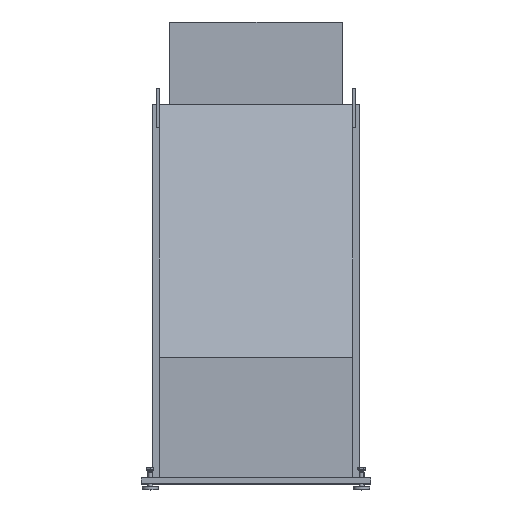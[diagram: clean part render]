
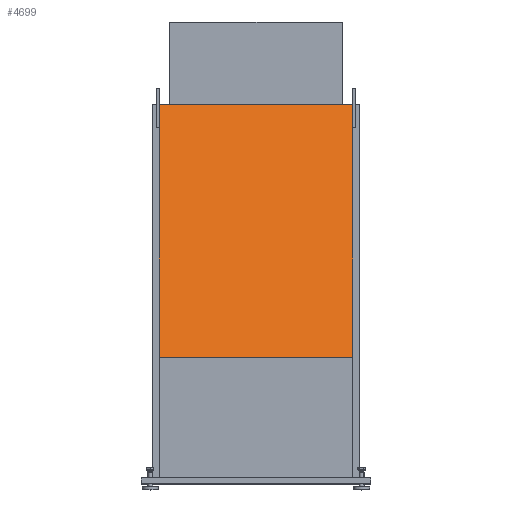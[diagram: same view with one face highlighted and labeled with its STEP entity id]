
A CAD part, top view. The second image highlights one B-rep face of the part: STEP entity #4699.
In plain terms, the highlighted planar face has unit normal (0, 0.342, 0.94).
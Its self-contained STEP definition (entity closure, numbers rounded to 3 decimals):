
#379=CARTESIAN_POINT('',(-420.,450.0,717.5));
#380=VERTEX_POINT('',#379);
#387=CARTESIAN_POINT('',(420.,450.,717.5));
#388=VERTEX_POINT('',#387);
#389=CARTESIAN_POINT('',(420.,450.,717.5));
#390=DIRECTION('',(-1.0,0.0,0.0));
#391=VECTOR('',#390,840.);
#392=LINE('',#389,#391);
#393=EDGE_CURVE('',#388,#380,#392,.T.);
#670=CARTESIAN_POINT('',(-420.,-650.0,1118.));
#671=VERTEX_POINT('',#670);
#678=CARTESIAN_POINT('',(-420.,450.0,717.5));
#679=DIRECTION('',(0.,-0.94,0.342));
#680=VECTOR('',#679,1170.641);
#681=LINE('',#678,#680);
#682=EDGE_CURVE('',#380,#671,#681,.T.);
#891=CARTESIAN_POINT('',(420.0,-650.,1118.));
#892=VERTEX_POINT('',#891);
#893=CARTESIAN_POINT('',(420.0,-650.,1118.));
#894=DIRECTION('',(0.,0.94,-0.342));
#895=VECTOR('',#894,1170.641);
#896=LINE('',#893,#895);
#897=EDGE_CURVE('',#892,#388,#896,.T.);
#4683=CARTESIAN_POINT('',(-395.,450.0,717.5));
#4684=DIRECTION('',(0.,0.342,0.94));
#4685=DIRECTION('',(1.0,0.0,0.0));
#4686=AXIS2_PLACEMENT_3D('',#4683,#4684,#4685);
#4687=PLANE('',#4686);
#4688=ORIENTED_EDGE('',*,*,#682,.T.);
#4689=CARTESIAN_POINT('',(420.0,-650.,1118.));
#4690=DIRECTION('',(-1.0,0.0,0.0));
#4691=VECTOR('',#4690,840.);
#4692=LINE('',#4689,#4691);
#4693=EDGE_CURVE('',#892,#671,#4692,.T.);
#4694=ORIENTED_EDGE('',*,*,#4693,.F.);
#4695=ORIENTED_EDGE('',*,*,#897,.T.);
#4696=ORIENTED_EDGE('',*,*,#393,.T.);
#4697=EDGE_LOOP('',(#4688,#4694,#4695,#4696));
#4698=FACE_OUTER_BOUND('',#4697,.T.);
#4699=ADVANCED_FACE('',(#4698),#4687,.T.);
